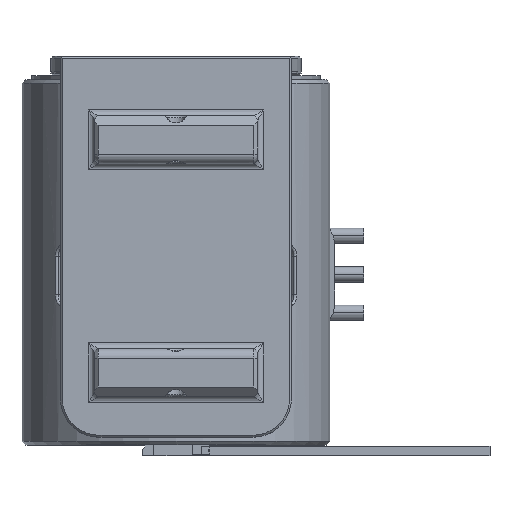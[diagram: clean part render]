
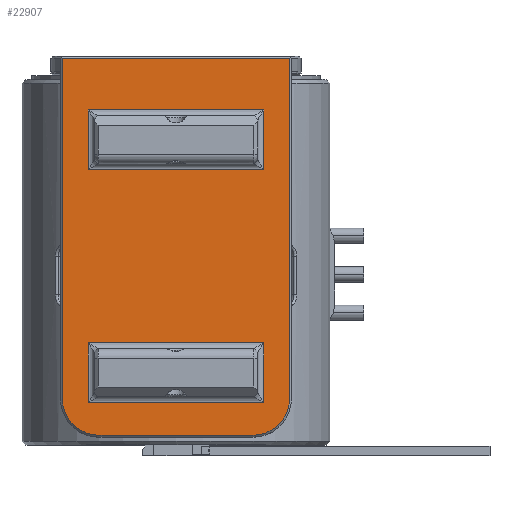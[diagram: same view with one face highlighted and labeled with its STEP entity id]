
A CAD part, top view. The second image highlights one B-rep face of the part: STEP entity #22907.
In plain terms, the highlighted planar face has unit normal (0, 0, 1) as drawn and (1, 0, 0) by its records, which use the part's own axes.
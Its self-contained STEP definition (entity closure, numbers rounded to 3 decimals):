
#19047=DIRECTION('',(0.,-1.,0.));
#19048=VECTOR('',#19047,11.8);
#19049=CARTESIAN_POINT('',(9.7,5.9,0.7));
#19050=LINE('',#19049,#19048);
#19211=DIRECTION('',(0.,0.,-1.));
#19212=VECTOR('',#19211,17.7);
#19213=CARTESIAN_POINT('',(9.7,5.9,0.7));
#19214=LINE('',#19213,#19212);
#19215=CARTESIAN_POINT('',(9.7,4.,-17.));
#19216=DIRECTION('',(-1.,0.,0.));
#19217=DIRECTION('',(0.,1.,0.));
#19218=AXIS2_PLACEMENT_3D('',#19215,#19216,#19217);
#19220=DIRECTION('',(0.,-1.,0.));
#19221=VECTOR('',#19220,8.);
#19222=CARTESIAN_POINT('',(9.7,4.,
-18.9));
#19223=LINE('',#19222,#19221);
#19224=CARTESIAN_POINT('',(9.7,-4.,-17.));
#19225=DIRECTION('',(-1.,0.,0.));
#19226=DIRECTION('',(0.,0.,-1.));
#19227=AXIS2_PLACEMENT_3D('',#19224,#19225,#19226);
#19229=DIRECTION('',(0.,0.,1.));
#19230=VECTOR('',#19229,17.7);
#19231=CARTESIAN_POINT('',(9.7,-5.9,-17.));
#19232=LINE('',#19231,#19230);
#19270=DIRECTION('',(0.,0.,-1.));
#19271=VECTOR('',#19270,3.1);
#19272=CARTESIAN_POINT('',(9.7,4.55,-14.1));
#19273=LINE('',#19272,#19271);
#19316=DIRECTION('',(0.,-1.,0.));
#19317=VECTOR('',#19316,9.1);
#19318=CARTESIAN_POINT('',(9.7,4.55,-17.2));
#19319=LINE('',#19318,#19317);
#19358=DIRECTION('',(0.,0.,1.));
#19359=VECTOR('',#19358,3.1);
#19360=CARTESIAN_POINT('',(9.7,-4.55,-17.2));
#19361=LINE('',#19360,#19359);
#19404=DIRECTION('',(0.,1.,0.));
#19405=VECTOR('',#19404,9.1);
#19406=CARTESIAN_POINT('',(9.7,-4.55,-14.1));
#19407=LINE('',#19406,#19405);
#20007=DIRECTION('',(0.,0.,1.));
#20008=VECTOR('',#20007,3.1);
#20009=CARTESIAN_POINT('',(9.7,-4.55,-5.1));
#20010=LINE('',#20009,#20008);
#20389=DIRECTION('',(0.,1.,0.));
#20390=VECTOR('',#20389,9.1);
#20391=CARTESIAN_POINT('',(9.7,-4.55,-2.));
#20392=LINE('',#20391,#20390);
#20435=DIRECTION('',(0.,0.,-1.));
#20436=VECTOR('',#20435,3.1);
#20437=CARTESIAN_POINT('',(9.7,4.55,-2.));
#20438=LINE('',#20437,#20436);
#20477=DIRECTION('',(0.,-1.,0.));
#20478=VECTOR('',#20477,9.1);
#20479=CARTESIAN_POINT('',(9.7,4.55,-5.1));
#20480=LINE('',#20479,#20478);
#21756=CARTESIAN_POINT('',(9.7,5.9,0.7));
#21757=VERTEX_POINT('',#21756);
#21758=CARTESIAN_POINT('',(9.7,-5.9,0.7));
#21759=VERTEX_POINT('',#21758);
#21760=CARTESIAN_POINT('',(9.7,5.9,
-17.));
#21761=VERTEX_POINT('',#21760);
#21764=CARTESIAN_POINT('',(9.7,4.,
-18.9));
#21765=VERTEX_POINT('',#21764);
#21786=CARTESIAN_POINT('',(9.7,-5.9,-17.));
#21787=VERTEX_POINT('',#21786);
#21788=CARTESIAN_POINT('',(9.7,-4.,-18.9));
#21789=VERTEX_POINT('',#21788);
#21790=CARTESIAN_POINT('',(9.7,4.55,-14.1));
#21791=CARTESIAN_POINT('',(9.7,4.55,-17.2));
#21792=VERTEX_POINT('',#21790);
#21793=VERTEX_POINT('',#21791);
#21794=CARTESIAN_POINT('',(9.7,-4.55,-14.1));
#21795=VERTEX_POINT('',#21794);
#21796=CARTESIAN_POINT('',(9.7,-4.55,-17.2));
#21797=VERTEX_POINT('',#21796);
#21798=CARTESIAN_POINT('',(9.7,-4.55,-5.1));
#21799=CARTESIAN_POINT('',(9.7,-4.55,-2.));
#21800=VERTEX_POINT('',#21798);
#21801=VERTEX_POINT('',#21799);
#21802=CARTESIAN_POINT('',(9.7,4.55,-5.1));
#21803=VERTEX_POINT('',#21802);
#21804=CARTESIAN_POINT('',(9.7,4.55,-2.));
#21805=VERTEX_POINT('',#21804);
#22873=CARTESIAN_POINT('',(9.7,0.,0.));
#22874=DIRECTION('',(1.,0.,0.));
#22875=DIRECTION('',(0.,-1.,0.));
#22876=AXIS2_PLACEMENT_3D('',#22873,#22874,#22875);
#22877=PLANE('',#22876);
#22878=ORIENTED_EDGE('',*,*,#22643,.T.);
#22879=ORIENTED_EDGE('',*,*,#22659,.T.);
#22881=ORIENTED_EDGE('',*,*,#22880,.T.);
#22882=ORIENTED_EDGE('',*,*,#22852,.T.);
#22883=ORIENTED_EDGE('',*,*,#22864,.T.);
#22884=ORIENTED_EDGE('',*,*,#22627,.F.);
#22885=EDGE_LOOP('',(#22878,#22879,#22881,#22882,#22883,#22884));
#22886=FACE_OUTER_BOUND('',#22885,.F.);
#22888=ORIENTED_EDGE('',*,*,#22887,.F.);
#22890=ORIENTED_EDGE('',*,*,#22889,.F.);
#22892=ORIENTED_EDGE('',*,*,#22891,.F.);
#22894=ORIENTED_EDGE('',*,*,#22893,.F.);
#22895=EDGE_LOOP('',(#22888,#22890,#22892,#22894));
#22896=FACE_BOUND('',#22895,.F.);
#22898=ORIENTED_EDGE('',*,*,#22897,.F.);
#22900=ORIENTED_EDGE('',*,*,#22899,.F.);
#22902=ORIENTED_EDGE('',*,*,#22901,.F.);
#22904=ORIENTED_EDGE('',*,*,#22903,.F.);
#22905=EDGE_LOOP('',(#22898,#22900,#22902,#22904));
#22906=FACE_BOUND('',#22905,.F.);
#22907=ADVANCED_FACE('',(#22886,#22896,#22906),#22877,.T.);
#19219=CIRCLE('',#19218,1.9);
#19228=CIRCLE('',#19227,1.9);
#22627=EDGE_CURVE('',#21757,#21759,#19050,.T.);
#22643=EDGE_CURVE('',#21757,#21761,#19214,.T.);
#22659=EDGE_CURVE('',#21761,#21765,#19219,.T.);
#22852=EDGE_CURVE('',#21789,#21787,#19228,.T.);
#22864=EDGE_CURVE('',#21787,#21759,#19232,.T.);
#22880=EDGE_CURVE('',#21765,#21789,#19223,.T.);
#22887=EDGE_CURVE('',#21792,#21793,#19273,.T.);
#22889=EDGE_CURVE('',#21795,#21792,#19407,.T.);
#22891=EDGE_CURVE('',#21797,#21795,#19361,.T.);
#22893=EDGE_CURVE('',#21793,#21797,#19319,.T.);
#22897=EDGE_CURVE('',#21800,#21801,#20010,.T.);
#22899=EDGE_CURVE('',#21803,#21800,#20480,.T.);
#22901=EDGE_CURVE('',#21805,#21803,#20438,.T.);
#22903=EDGE_CURVE('',#21801,#21805,#20392,.T.);
